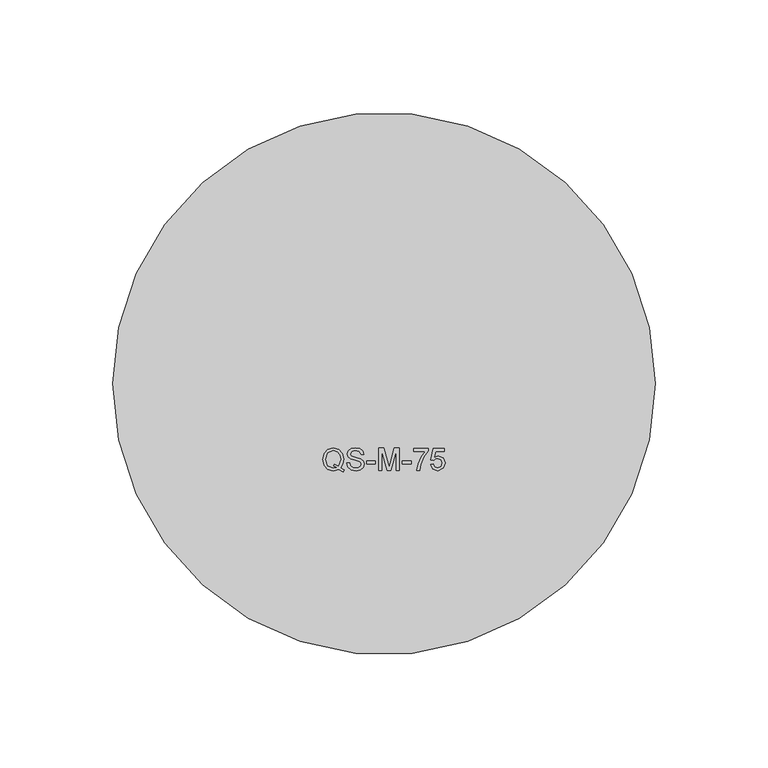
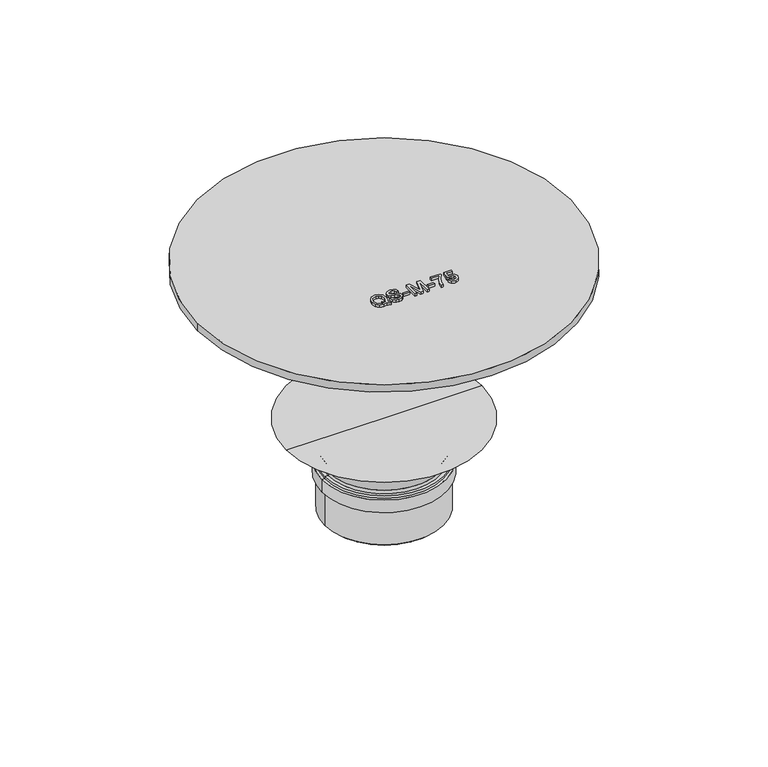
"""IFC4 building model written with IfcOpenShell, lengths in millimetres: sanitary terminal geometry, PAVCO_PVC QS Tragante : QS-M-75-260 Canal Metálica."""

from ifc_helpers import new_model, si_unit, point, frame, origin, origin_2d, place, context, project, spatial, polyline, circle_curve, ellipse_curve, trimmed, segment, composite_curve, outline, extrude, source, transform, mapped, element, save
from ifc_brep_helpers import plane_surface, cylinder_surface, revolved_surface, advanced_brep


def sanitary_terminal_bb284fb7(model_context):
    return source(origin(), model_context, "Body", "SolidModel", [
        advanced_brep(
        [(36.1500013, 0.0, -73.0), (-36.1500013, 0.0, -73.0), (-38.1500013, 0.0, -71.2980538), (38.1500013, 0.0, -71.2980538), (0.0, 0.0, -73.0), (62.9019224, 0.0, -11.5000005), (-62.9019224, 0.0, -11.5000005), (0.0, 0.0, -11.5000005), (43.4999988, 0.0, -22.7017063), (-43.4999988, 0.0, -22.7017063), (35.9999985, 0.0, -35.692088), (-35.9999985, 0.0, -35.692088), (35.9999985, 0.0, -38.0000021), (-35.9999985, 0.0, -38.0000021), (38.1500013, 0.0, -38.0000021), (-38.1500013, 0.0, -38.0000021), (38.1500013, 0.0, -39.5000014), (-38.1500013, 0.0, -39.5000014), (39.9999991, 0.0, -39.5000014), (-39.9999991, 0.0, -39.5000014), (39.9999991, 0.0, -48.0), (-39.9999991, 0.0, -48.0), (38.1500013, 0.0, -48.0), (-38.1500013, 0.0, -48.0)],
        [
            (0, 1, circle_curve(frame((0.0, 0.0, -73.0), z_axis=(0.0, 0.0, 1.0), x_axis=(-1.0, 0.0, 0.0)), 36.1500013)),
            (1, 2),
            (2, 3, circle_curve(frame((0.0, 0.0, -71.2980538), z_axis=(0.0, 0.0, -1.0), x_axis=(-1.0, 0.0, 0.0)), 38.1500013)),
            (3, 0),
            (1, 0, circle_curve(frame((0.0, 0.0, -73.0), z_axis=(0.0, 0.0, 1.0), x_axis=(-1.0, 0.0, 0.0)), 36.1500013)),
            (3, 2, circle_curve(frame((0.0, 0.0, -71.2980538), z_axis=(0.0, 0.0, -1.0), x_axis=(-1.0, 0.0, 0.0)), 38.1500013)),
            (4, 1),
            (0, 4),
            (5, 6, circle_curve(frame((0.0, 0.0, -11.5000005), z_axis=(0.0, 0.0, 1.0), x_axis=(-1.0, 0.0, 0.0)), 62.9019224)),
            (6, 7),
            (7, 5),
            (6, 5, circle_curve(frame((0.0, 0.0, -11.5000005), z_axis=(0.0, 0.0, 1.0), x_axis=(-1.0, 0.0, 0.0)), 62.9019224)),
            (8, 9, circle_curve(frame((0.0, 0.0, -22.7017063), z_axis=(0.0, 0.0, 1.0), x_axis=(-1.0, 0.0, 0.0)), 43.4999988)),
            (9, 6),
            (5, 8),
            (9, 8, circle_curve(frame((0.0, 0.0, -22.7017063), z_axis=(0.0, 0.0, 1.0), x_axis=(-1.0, 0.0, 0.0)), 43.4999988)),
            (10, 11, circle_curve(frame((0.0, 0.0, -35.692088), z_axis=(0.0, 0.0, 1.0), x_axis=(-1.0, 0.0, 0.0)), 35.9999985)),
            (11, 9, circle_curve(frame((-50.9999992, 0.0, -35.692088), z_axis=(0.0, -1.0, 0.0), x_axis=(1.0, 0.0, 0.0)), 15.0000007)),
            (8, 10, circle_curve(frame((50.9999992, 0.0, -35.692088), z_axis=(0.0, -1.0, 0.0), x_axis=(-1.0, 0.0, 0.0)), 15.0000007)),
            (11, 10, circle_curve(frame((0.0, 0.0, -35.692088), z_axis=(0.0, 0.0, 1.0), x_axis=(-1.0, 0.0, 0.0)), 35.9999985)),
            (12, 13, circle_curve(frame((0.0, 0.0, -38.0000021), z_axis=(0.0, 0.0, 1.0), x_axis=(-1.0, 0.0, 0.0)), 35.9999985)),
            (13, 11),
            (10, 12),
            (13, 12, circle_curve(frame((0.0, 0.0, -38.0000021), z_axis=(0.0, 0.0, 1.0), x_axis=(-1.0, 0.0, 0.0)), 35.9999985)),
            (14, 15, circle_curve(frame((0.0, 0.0, -38.0000021), z_axis=(0.0, 0.0, 1.0), x_axis=(-1.0, 0.0, 0.0)), 38.1500013)),
            (15, 13),
            (12, 14),
            (15, 14, circle_curve(frame((0.0, 0.0, -38.0000021), z_axis=(0.0, 0.0, 1.0), x_axis=(-1.0, 0.0, 0.0)), 38.1500013)),
            (16, 17, circle_curve(frame((0.0, 0.0, -39.5000014), z_axis=(0.0, 0.0, 1.0), x_axis=(-1.0, 0.0, 0.0)), 38.1500013)),
            (17, 15),
            (14, 16),
            (17, 16, circle_curve(frame((0.0, 0.0, -39.5000014), z_axis=(0.0, 0.0, 1.0), x_axis=(-1.0, 0.0, 0.0)), 38.1500013)),
            (18, 19, circle_curve(frame((0.0, 0.0, -39.5000014), z_axis=(0.0, 0.0, 1.0), x_axis=(-1.0, 0.0, 0.0)), 39.9999991)),
            (19, 17),
            (16, 18),
            (19, 18, circle_curve(frame((0.0, 0.0, -39.5000014), z_axis=(0.0, 0.0, 1.0), x_axis=(-1.0, 0.0, 0.0)), 39.9999991)),
            (20, 21, circle_curve(frame((0.0, 0.0, -48.0), z_axis=(0.0, 0.0, 1.0), x_axis=(-1.0, 0.0, 0.0)), 39.9999991)),
            (21, 19),
            (18, 20),
            (21, 20, circle_curve(frame((0.0, 0.0, -48.0), z_axis=(0.0, 0.0, 1.0), x_axis=(-1.0, 0.0, 0.0)), 39.9999991)),
            (22, 23, circle_curve(frame((0.0, 0.0, -48.0), z_axis=(0.0, 0.0, 1.0), x_axis=(-1.0, 0.0, 0.0)), 38.1500013)),
            (23, 21),
            (20, 22),
            (23, 22, circle_curve(frame((0.0, 0.0, -48.0), z_axis=(0.0, 0.0, 1.0), x_axis=(-1.0, 0.0, 0.0)), 38.1500013)),
            (2, 23),
            (22, 3),
        ],
        [
            revolved_surface(polyline([(-38.1500013, 0.0, -71.2980538), (-36.1500013, 0.0, -73.0)]), (0.0, 0.0, -73.0000003), (0.0, 0.0, -1.0)),
            plane_surface(frame((0.0, 0.0, -73.0), z_axis=(0.0, 0.0, -1.0), x_axis=(-1.0, 0.0, 0.0))),
            plane_surface(frame((0.0, 0.0, -11.5000005), z_axis=(0.0, 0.0, 1.0), x_axis=(-1.0, 0.0, 0.0))),
            revolved_surface(polyline([(-62.9019224, 0.0, -11.5000005), (-43.4999988, 0.0, -22.7017063)]), (0.0, 0.0, -73.0000003), (0.0, 0.0, -1.0)),
            revolved_surface(trimmed(ellipse_curve(frame((-50.9999992, 0.0, -35.692088), z_axis=(0.0, 1.0, 0.0), x_axis=(1.0, 0.0, 0.0)), 15.0000007, 15.0000007), [point((-43.4999988, 0.0, -22.7017063))], [point((-35.9999985, 0.0, -35.692088))], True, "CARTESIAN"), (0.0, 0.0, -73.0000003), (0.0, 0.0, -1.0)),
            cylinder_surface(frame((0.0, 0.0, -73.0000003), z_axis=(0.0, 0.0, -1.0), x_axis=(-1.0, 0.0, 0.0)), 35.9999985),
            plane_surface(frame((0.0, 0.0, -38.0000021), z_axis=(0.0, 0.0, 1.0), x_axis=(-1.0, 0.0, 0.0))),
            cylinder_surface(frame((0.0, 0.0, -73.0000003), z_axis=(0.0, 0.0, -1.0), x_axis=(-1.0, 0.0, 0.0)), 38.1500013),
            plane_surface(frame((0.0, 0.0, -39.5000014), z_axis=(0.0, 0.0, 1.0), x_axis=(-1.0, 0.0, 0.0))),
            cylinder_surface(frame((0.0, 0.0, -73.0000003), z_axis=(0.0, 0.0, -1.0), x_axis=(-1.0, 0.0, 0.0)), 39.9999991),
            plane_surface(frame((0.0, 0.0, -48.0), z_axis=(0.0, 0.0, -1.0), x_axis=(-1.0, 0.0, 0.0))),
        ],
        [
            (0, [[1, 2, 3, 4]]),
            (0, [[5, -4, 6, -2]]),
            (1, [[7, -1, 8]]),
            (1, [[-8, -5, -7]]),
            (2, [[9, 10, 11]]),
            (2, [[12, -11, -10]]),
            (3, [[13, 14, -9, 15]]),
            (3, [[16, -15, -12, -14]]),
            (4, [[17, 18, -13, 19]]),
            (4, [[20, -19, -16, -18]]),
            (5, [[21, 22, -17, 23]]),
            (5, [[24, -23, -20, -22]]),
            (6, [[25, 26, -21, 27]]),
            (6, [[28, -27, -24, -26]]),
            (7, [[29, 30, -25, 31]]),
            (7, [[32, -31, -28, -30]]),
            (8, [[33, 34, -29, 35]]),
            (8, [[36, -35, -32, -34]]),
            (9, [[37, 38, -33, 39]]),
            (9, [[40, -39, -36, -38]]),
            (10, [[41, 42, -37, 43]]),
            (10, [[44, -43, -40, -42]]),
            (7, [[-3, 45, -41, 46]]),
            (7, [[-6, -46, -44, -45]]),
        ],
    ),
        extrude(outline(composite_curve([segment(trimmed(circle_curve(origin_2d(), 120.0), [point((120.0, 0.0))], [point((-120.0, 0.0))], False, "CARTESIAN"), True, "CONTINUOUS"), segment(trimmed(circle_curve(origin_2d(), 120.0), [point((-120.0, 0.0))], [point((120.0, 0.0))], False, "CARTESIAN"), True, "CONTINUOUS")], self_intersect=False)), frame((0.0, 0.0, 90.0), z_axis=(0.0, 0.0, 1.0), x_axis=(1.0, 0.0, 0.0)), (0.0, 0.0, 1.0), 5.0),
        extrude(outline(polyline([(-19.2154561, -37.2335081), (-17.6890138, -38.2599504), (-18.0207446, -39.1613927), (-20.0471869, -38.0099504), (-22.4390138, -38.5676427), (-24.8356484, -37.9246139), (-26.4931003, -36.1169216), (-27.0736292, -33.4931235), (-26.4943023, -30.8500947), (-24.8452638, -29.0363927), (-22.451033, -28.4137966), (-20.0411773, -29.0508158), (-18.4053599, -30.8344697), (-17.8428599, -33.4210081), (-18.1842061, -35.5724504), (-19.2154561, -37.2335081)]), holes=[polyline([(-22.1000715, -35.5964889), (-20.2298792, -36.531585), (-19.0736292, -33.4835081), (-19.482283, -31.4630754), (-20.6781965, -30.1217293), (-22.4438215, -29.6445658), (-24.8765138, -30.60971), (-25.8428599, -33.4907197), (-24.8873311, -36.3428831), (-22.4462253, -37.3368735), (-21.1217061, -37.0844697), (-22.4173792, -36.5387966), (-22.1000715, -35.5964889)])]), frame((0.0, 0.0, 95.0), z_axis=(0.0, 0.0, 1.0), x_axis=(1.0, 0.0, 0.0)), (0.0, 0.0, 1.0), 2.0),
        extrude(outline(polyline([(-16.4582446, -35.0291812), (-15.2274753, -35.0291812), (-14.8308407, -36.2611524), (-13.8620907, -37.0399985), (-12.3861292, -37.3368735), (-11.1000715, -37.1121139), (-10.2695426, -36.4943254), (-9.9967061, -35.6686043), (-10.201033, -34.9005754), (-11.0375715, -34.3416812), (-12.8296388, -33.8717293), (-14.7587253, -33.2647581), (-15.8056003, -32.3488927), (-16.1505523, -31.125335), (-15.7238696, -29.7323062), (-14.4774753, -28.7491331), (-12.6529561, -28.4137966), (-10.7058407, -28.7647581), (-9.4077638, -29.7960081), (-8.919783, -31.3368735), (-10.1505523, -31.3368735), (-10.8476676, -30.0724504), (-12.6048792, -29.6445658), (-14.3668984, -30.0676427), (-14.919783, -31.0892774), (-14.5279561, -31.9426427), (-12.5183407, -32.6301427), (-10.3404561, -33.2479312), (-9.1493503, -34.2455274), (-8.7659369, -35.6373543), (-9.2070426, -37.10971), (-10.4762734, -38.1842293), (-12.3380523, -38.5676427), (-14.5363696, -38.1541812), (-15.9269946, -36.9089889), (-16.4582446, -35.0291812)])), frame((0.0, 0.0, 95.0), z_axis=(0.0, 0.0, 1.0), x_axis=(1.0, 0.0, 0.0)), (0.0, 0.0, 1.0), 2.0),
        extrude(outline(polyline([(-7.6890138, -35.4907197), (-7.6890138, -34.2599504), (-3.8428599, -34.2599504), (-3.8428599, -35.4907197), (-7.6890138, -35.4907197)])), frame((0.0, 0.0, 95.0), z_axis=(0.0, 0.0, 1.0), x_axis=(1.0, 0.0, 0.0)), (0.0, 0.0, 1.0), 2.0),
        extrude(outline(polyline([(-2.3043984, -38.4137966), (-2.3043984, -28.5676427), (-0.1866099, -28.5676427), (1.8278131, -35.5075466), (2.2340631, -36.9570658), (2.673967, -35.3873543), (4.6547362, -28.5676427), (6.7725247, -28.5676427), (6.7725247, -38.4137966), (5.5417554, -38.4137966), (5.5417554, -29.798412), (3.0681977, -38.4137966), (1.3999285, -38.4137966), (-1.0736292, -29.798412), (-1.0736292, -38.4137966), (-2.3043984, -38.4137966)])), frame((0.0, 0.0, 95.0), z_axis=(0.0, 0.0, 1.0), x_axis=(1.0, 0.0, 0.0)), (0.0, 0.0, 1.0), 2.0),
        extrude(outline(polyline([(8.1571401, -35.4907197), (8.1571401, -34.2599504), (12.0032939, -34.2599504), (12.0032939, -35.4907197), (8.1571401, -35.4907197)])), frame((0.0, 0.0, 95.0), z_axis=(0.0, 0.0, 1.0), x_axis=(1.0, 0.0, 0.0)), (0.0, 0.0, 1.0), 2.0),
        extrude(outline(polyline([(13.080217, -29.9522581), (13.080217, -28.7214889), (19.5417554, -28.7214889), (19.5417554, -29.7166812), (17.7088227, -32.3645177), (16.3061785, -35.7383158), (15.8494477, -38.4137966), (14.6186785, -38.4137966), (15.1078612, -35.6373543), (16.4504093, -32.4991331), (18.3109862, -29.9522581), (13.080217, -29.9522581)])), frame((0.0, 0.0, 95.0), z_axis=(0.0, 0.0, 1.0), x_axis=(1.0, 0.0, 0.0)), (0.0, 0.0, 1.0), 2.0),
        extrude(outline(polyline([(20.6186785, -35.798412), (21.8494477, -35.6445658), (22.4696401, -36.9125947), (23.7556977, -37.3368735), (25.298967, -36.7467293), (25.8494477, -35.1806235), (25.3338227, -33.719085), (23.7749285, -33.1830274), (22.6943997, -33.3969697), (22.0032939, -33.9522581), (20.7725247, -33.798412), (21.8494477, -28.7214889), (26.6186785, -28.7214889), (26.6186785, -29.9522581), (22.8446401, -29.9522581), (22.3181977, -32.6637966), (24.1186785, -31.9522581), (26.2232458, -32.8344697), (27.080217, -35.1037004), (26.3085824, -37.3873543), (23.7508901, -38.5676427), (21.5790151, -37.8092293), (20.6186785, -35.798412)])), frame((0.0, 0.0, 95.0), z_axis=(0.0, 0.0, 1.0), x_axis=(1.0, 0.0, 0.0)), (0.0, 0.0, 1.0), 2.0),
    ])


if __name__ == "__main__":
    model = new_model("IFC4")
    model_context = context("Model", 3, world=origin())
    ifc_project = project(units=[si_unit("LENGTHUNIT", "METRE", prefix="MILLI")], contexts=[model_context])
    site = spatial("IfcSite", under=ifc_project)
    building = spatial("IfcBuilding", under=site)
    placement = place(None, origin())
    sanitary_terminal_shape = sanitary_terminal_bb284fb7(model_context)
    element("IfcSanitaryTerminal", 1, ObjectType="PAVCO_PVC QS Tragante : QS-M-75-260 Canal Metálica", at=placement, inside=building, context=model_context, shape_type="MappedRepresentation", body=[
        mapped(sanitary_terminal_shape, transform((0.0, 0.0, 0.0), x_axis=(1.0, 0.0, 0.0), y_axis=(0.0, 1.0, 0.0), z_axis=(0.0, 0.0, 1.0))),
    ])
    save(model, "model.ifc")
